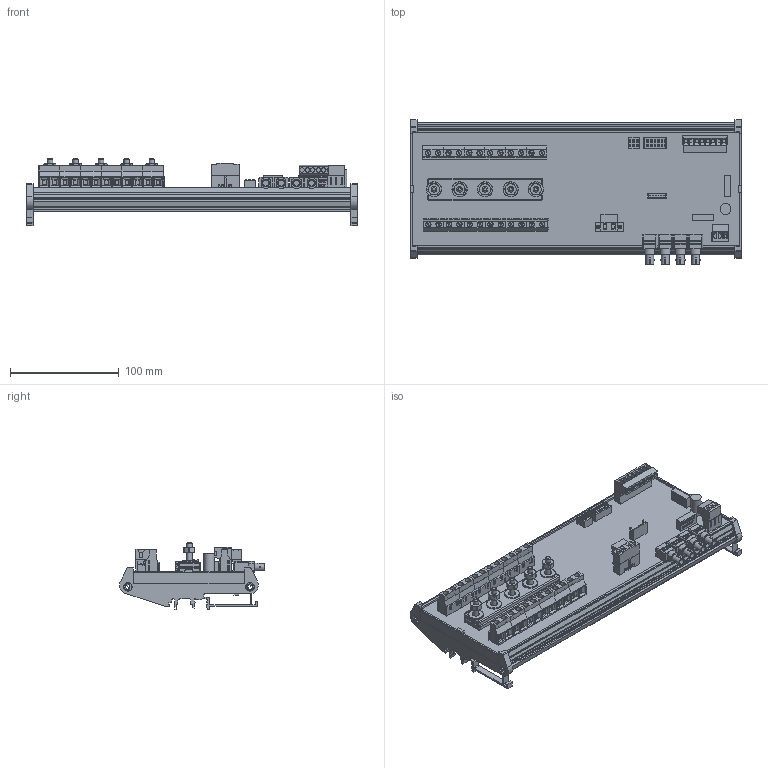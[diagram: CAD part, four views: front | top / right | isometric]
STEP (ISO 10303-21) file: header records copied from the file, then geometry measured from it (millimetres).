
FILE_DESCRIPTION(('FreeCAD Model'),'2;1');
FILE_NAME('C:/3D Files/Stringhe/ST0N/ST0N2415 DR/ST0N2415 DR.step', '2021-01-29T09:44:59',('Author'),(''), 'Open CASCADE STEP processor 7.2','FreeCAD','Unknown');
FILE_SCHEMA(('AUTOMOTIVE_DESIGN { 1 0 10303 214 1 1 1 1 }'));
Length unit declared in the file: millimetre
Products named in the file (49): ST0N2415_DR; Mstb_3P_F; Mstb_3Pc_M; AmpModu_6P_M; DipSwitch8; DipSwitch4; Dado6MA003; Dado6MA004; Dado6MA005; Dado6MA006; Rondella6; Rondella007; Rondella008; Rondella009; CN3_M; CN3_F; IB2405LS-1W; ELNA_470_uF_35_V; VTBSE-6x35; VTBSE-6x031; VTBSE-6x032; VTBSE-6x033; Mstb_8P_F; Mstb_8Pc_M; IB2405LS-1W001; Stampato_300x108; Barra_105_mm; Barra_105_mm001; Barra_105_mm002; Dado6MA007; Rondella010; VTBSE-6x034; CH_01-02; CH_03-04; CH_05-06; CH_07-08; CH_09-10; CH_11-12; CH_13-14; CH_15-16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
Assembly tree (48 placements, depth 2):
  ST0N2415_DR
    Mstb_3P_F
    Mstb_3Pc_M
    AmpModu_6P_M
    DipSwitch8
    DipSwitch4
    Dado6MA003
    Dado6MA004
    Dado6MA005
    Dado6MA006
    Rondella6
    Rondella007
    Rondella008
    Rondella009
    CN3_M
    CN3_F
    IB2405LS-1W
    ELNA_470_uF_35_V
    VTBSE-6x35
    VTBSE-6x031
    VTBSE-6x032
    VTBSE-6x033
    Mstb_8P_F
    Mstb_8Pc_M
    IB2405LS-1W001
    Stampato_300x108
    Barra_105_mm
    Barra_105_mm001
    Barra_105_mm002
    Dado6MA007
    Rondella010
    VTBSE-6x034
    CH_01-02
    CH_03-04
    CH_05-06
    CH_07-08
    CH_09-10
    CH_11-12
    CH_13-14
    CH_15-16
    CH_17-18
    CH_19-20
    CH_21-22
    CH_23-24
    Profilo_304x128
    HFBR-x41xTZ001
    HFBR-x41xTZ002
    HFBR-x41xTZ003
    HFBR-x41xTZ004
Bounding box: 304 x 133.3 x 62.29 mm (x, y, z)
Volume: 276555.5 mm3; surface area: 304917 mm2
Topology: 126 solids, 266 shells, 5017 faces, 22301 edges, 43468 vertices
Faces by surface type: plane 3959, cylinder 702, bspline 136, cone 129, torus 57, sphere 32, extrusion 2
Full cylindrical faces by diameter (mm): 0.5 x40, 0.75 x36, 1 x10, 1.5 x11, 1.6 x2, 1.8 x2, 2.05 x2, 2.5 x2, 2.6 x24, 3.3 x2, 3.5 x2, 3.8 x2, 4 x15, 4.3 x4, 4.7 x24, 4.917 x5, 5 x34, 5.6 x4, 6.6 x5, 7 x15, 7.1 x4, 7.9 x4, 9.202 x4, 10 x6, 14 x5
Entity records: 460857 total; most frequent: CARTESIAN_POINT 114187, DIRECTION 57228, VECTOR 39191, LINE 39189, ORIENTED_EDGE 26880, PCURVE 26880, DEFINITIONAL_REPRESENTATION 26880, EDGE_CURVE 14277
